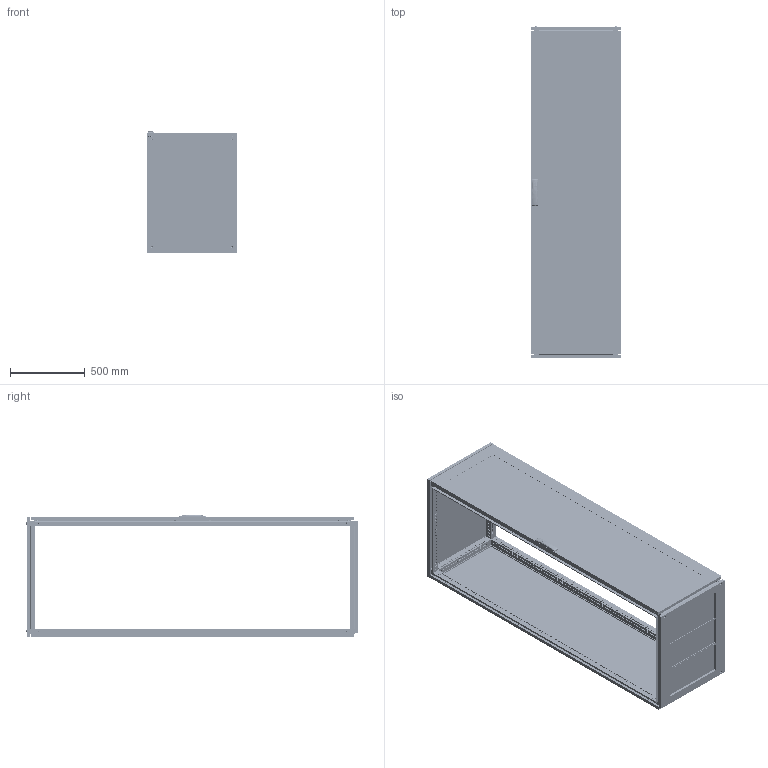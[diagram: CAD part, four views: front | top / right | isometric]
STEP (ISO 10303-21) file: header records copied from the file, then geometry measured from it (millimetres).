
FILE_DESCRIPTION (( 'STEP AP203' ), '1' );
FILE_NAME ('R5CQEN2268AX +.STEP', '2025-05-07T12:58:44', ( '' ), ( '' ), 'SwSTEP 2.0', 'SolidWorks 2022', '' );
FILE_SCHEMA (( 'CONFIG_CONTROL_DESIGN' ));
Length unit declared in the file: millimetre
Products named in the file (65): RB.2052.00.00.0 СБ simple_-29; M6 DIN 985 cl.6,0 Zinc_straight; RB.0562.01.00.0 СБ simple_-18; RB.2680.00.00.0 СБ simple; 7 DIN 6799 Zinc simple; RB.2686.00.00.0 simple; RB.0562.01.01.0 simple_-18; RB.2680.00.02.0 simple; RB.1957.00.00.0 simple_-06; RB.2755.00.00.0 СБ simple_-15; RB.2680.00.01.0 simple; M8x12 AC00C476 cl.8,8 Zinc_stright; RB.2172.00.00.1 simple; 7 DIN 6799 Zinc; RB.2696.00.00.0 simple; RB.1867.01.00.0 СБ simple_-25; R5NCPTE - Assem simple_R5NCPTE2260; RB.2052.01.00.0 СБ simple_-29; RB.1633.00.01.0 simple_-02; RB.0562.00.00.0 СБ simple_-18; RB.2968.00.00.0 simple; Pin 4x16 DIN 7 AISI 303 (A1) simple; M6x10 DIN 7500 E HX cl.5.8 Zinc_straight; R5CQEN2268AX +; RB.2456.00.00.0 simple_-03; PF 5x10 KTB simple_600x800; PF 7,5x15 CPE simple_2200x0600; RB.2969.00.01.0 simple; RB.1867.01.01.0 simple_-10; TPA.08.0139.00.03.0; M6x10 DIN 7500 M Torx cl.5.8 Zinc_straight; M6x10 DIN 912 HX cl.8,8 Zinc_straight; TPA.08.0084.00.00.0 simple; AC00C446-R; RB.2455.00.00.0 simple_-02; Square cap 20x20 simple; RB.2685.00.00.0 simple_-03; R5NCRE-Assem simple_R5NCRE2260; RB.2702.00.00.0 simple; R5NKTB - Assem simple_H=2200 R5NKTB68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
Assembly tree (173 placements, depth 5):
  R5CQEN2268AX +
    R5NCPTE - Assem simple_R5NCPTE2260
      RB.0562.00.00.0 СБ simple_-18
        RB.0562.01.00.0 СБ simple_-18
          RB.0562.01.01.0 simple_-18
          М6х12 A5100231_straight  x7
          RB.2702.00.00.0 simple  x4
          PF 7,5x15 CPE simple_2200x0600
          Glass CPTE_2200x0600
          Glue CPTE simple_2200x0600
        Square cap 20x20 simple  x2
        M6x15 Erickson cl.4,8 Zinc  x2
        RB.0528.00.01.0 simple_-06  x2
        ATOS Traction guide ILY03.35  x4
        RB.2357.00.00.0 simple_-03
        RB.2680.00.00.0 СБ simple
          TPA.08.0139.00.01.0 simple
          RB.2680.00.01.0 simple
          RB.2680.00.02.0 simple  x2
        TPA.08.0139.00.03.0  x2
        M6 DIN 985 cl.6,0 Zinc_straight  x4
        4,0x16 F Torx Zinc (ART 88200)_thread  x2
        RB.0528.04.00.0 СБ simple  x2
          RB.0528.04.01.0 simple
          Pressing stud FH-M6-12_M6x12mm
      M6x10 DIN 912 HX cl.8,8 Zinc_straight  x8
      4.8x13 DIN 7981 PH Zinc_straight
      7 DIN 6799 Zinc simple  x4
      RB.2968.00.00.0 simple  x4
      RB.2969.00.00.0 СБ simple  x4
        RB.2969.00.01.0 simple
        Pin 4x16 DIN 7 AISI 303 (A1) simple
        M6 MGR-MKO-0625 simple_Thread
      AC00C446-R
      RB.2696.00.00.0 simple  x4
      7 DIN 6799 Zinc  x4
    R5NCRE-Assem simple_R5NCRE2260
      RB.2052.00.00.0 СБ simple_-29
        RB.2052.01.00.0 СБ simple_-29
          RB.0054.01.01.0 simple_-29
          М6х12 A5100231_straight  x4
        PF 7x14 CRE simple_2200x0600
      RB.2172.00.00.1 simple  x8
      M6x10 DIN 7500 E HX cl.5.8 Zinc_straight  x8
      M6x10 DIN 7500 M Torx cl.5.8 Zinc_straight  x8
    R5NKMN - Assem simple_R5NKMN22 (600х800)
      RB.2528.00.00.0 simple_-06  x4
    R5NKTB - Assem simple_H=2200 R5NKTB68
      RB.2499.00.00.0 СБ simple_-15
        RB.2499.01.00.0 СБ simple_-14
          RB.1633.00.01.0 simple_-02  x2
          RB.1633.00.02.0 simple_-03  x2
          PF 5x10 KTB simple_600x800
        RB.2457.00.00.0 СБ simple_-15
          RB.2455.00.00.0 simple_-02  x2
          RB.2456.00.00.0 simple_-03  x2
          TPA.08.0084.00.00.0 simple  x2
          TPA.08.0083.00.00.0 simple  x2
          M8x12 AC00C476 cl.8,8 Zinc_stright  x4
        RB.1957.00.00.0 simple_-06  x3
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Bounding box: 600 x 2213.3 x 814.79 mm (x, y, z)
Volume: 16614521.6 mm3; surface area: 14873912.2 mm2
Topology: 176 solids, 192 shells, 24077 faces, 68463 edges, 45155 vertices
Faces by surface type: plane 13363, cylinder 9173, cone 704, bspline 435, torus 368, sphere 34
Entity records: 238257 total; most frequent: CARTESIAN_POINT 57807, ORIENTED_EDGE 35882, DIRECTION 34347, EDGE_CURVE 17967, VERTEX_POINT 11906, AXIS2_PLACEMENT_3D 11533, LINE 11281, VECTOR 11281
